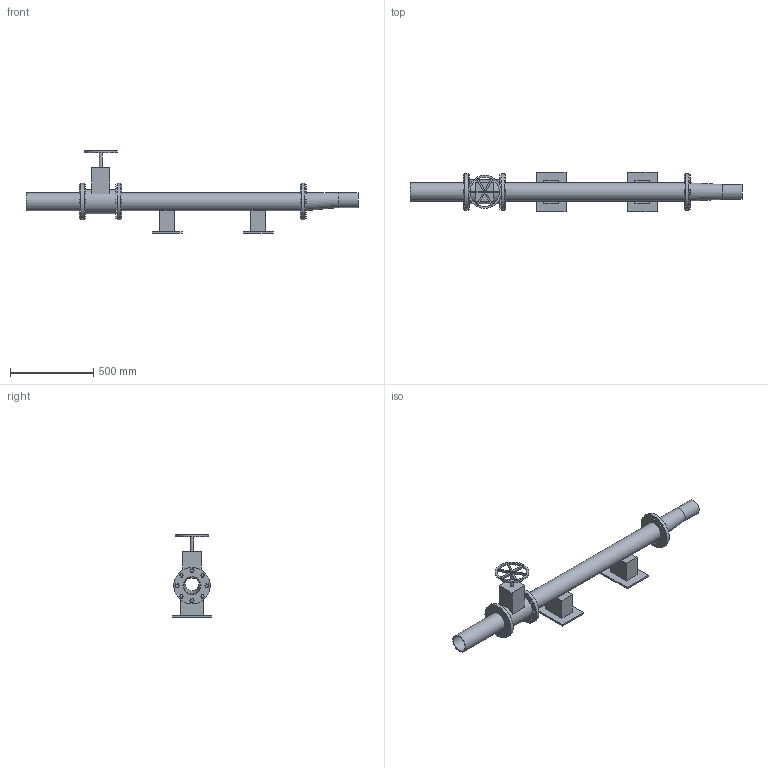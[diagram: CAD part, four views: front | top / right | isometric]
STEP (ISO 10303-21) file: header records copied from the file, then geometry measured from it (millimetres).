
FILE_DESCRIPTION(('Open CASCADE Model'),'2;1');
FILE_NAME('Open CASCADE Shape Model','2026-09-13T08:16:12',('Author'),( 'Open CASCADE'),'Open CASCADE STEP processor 7.8','Open CASCADE 7.8' ,'Unknown');
FILE_SCHEMA(('AUTOMOTIVE_DESIGN { 1 0 10303 214 1 1 1 1 }'));
Length unit declared in the file: millimetre
Products named in the file (43): Open CASCADE STEP translator 7.8 1; Open CASCADE STEP translator 7.8 1.1; Open CASCADE STEP translator 7.8 1.2; Open CASCADE STEP translator 7.8 1.3; Open CASCADE STEP translator 7.8 1.4; Open CASCADE STEP translator 7.8 1.5; Open CASCADE STEP translator 7.8 1.6; Open CASCADE STEP translator 7.8 1.7; Open CASCADE STEP translator 7.8 1.8; Open CASCADE STEP translator 7.8 1.9; Open CASCADE STEP translator 7.8 1.10; Open CASCADE STEP translator 7.8 1.11; Open CASCADE STEP translator 7.8 1.12; Open CASCADE STEP translator 7.8 1.13; Open CASCADE STEP translator 7.8 1.14; Open CASCADE STEP translator 7.8 1.15; Open CASCADE STEP translator 7.8 1.16; Open CASCADE STEP translator 7.8 1.17; Open CASCADE STEP translator 7.8 1.18; Open CASCADE STEP translator 7.8 1.19; Open CASCADE STEP translator 7.8 1.20; Open CASCADE STEP translator 7.8 1.21; Open CASCADE STEP translator 7.8 1.22; Open CASCADE STEP translator 7.8 1.23; Open CASCADE STEP translator 7.8 1.24; Open CASCADE STEP translator 7.8 1.25; Open CASCADE STEP translator 7.8 1.26; Open CASCADE STEP translator 7.8 1.27; Open CASCADE STEP translator 7.8 1.28; Open CASCADE STEP translator 7.8 1.29; Open CASCADE STEP translator 7.8 1.30; Open CASCADE STEP translator 7.8 1.31; Open CASCADE STEP translator 7.8 1.32; Open CASCADE STEP translator 7.8 1.33; Open CASCADE STEP translator 7.8 1.34; Open CASCADE STEP translator 7.8 1.35; Open CASCADE STEP translator 7.8 1.36; Open CASCADE STEP translator 7.8 1.37; Open CASCADE STEP translator 7.8 1.38; Open CASCADE STEP translator 7.8 1.39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
Assembly tree (42 placements, depth 2):
  Open CASCADE STEP translator 7.8 1
    Open CASCADE STEP translator 7.8 1.1
    Open CASCADE STEP translator 7.8 1.2
    Open CASCADE STEP translator 7.8 1.3
    Open CASCADE STEP translator 7.8 1.4
    Open CASCADE STEP translator 7.8 1.5
    Open CASCADE STEP translator 7.8 1.6
    Open CASCADE STEP translator 7.8 1.7
    Open CASCADE STEP translator 7.8 1.8
    Open CASCADE STEP translator 7.8 1.9
    Open CASCADE STEP translator 7.8 1.10
    Open CASCADE STEP translator 7.8 1.11
    Open CASCADE STEP translator 7.8 1.12
    Open CASCADE STEP translator 7.8 1.13
    Open CASCADE STEP translator 7.8 1.14
    Open CASCADE STEP translator 7.8 1.15
    Open CASCADE STEP translator 7.8 1.16
    Open CASCADE STEP translator 7.8 1.17
    Open CASCADE STEP translator 7.8 1.18
    Open CASCADE STEP translator 7.8 1.19
    Open CASCADE STEP translator 7.8 1.20
    Open CASCADE STEP translator 7.8 1.21
    Open CASCADE STEP translator 7.8 1.22
    Open CASCADE STEP translator 7.8 1.23
    Open CASCADE STEP translator 7.8 1.24
    Open CASCADE STEP translator 7.8 1.25
    Open CASCADE STEP translator 7.8 1.26
    Open CASCADE STEP translator 7.8 1.27
    Open CASCADE STEP translator 7.8 1.28
    Open CASCADE STEP translator 7.8 1.29
    Open CASCADE STEP translator 7.8 1.30
    Open CASCADE STEP translator 7.8 1.31
    Open CASCADE STEP translator 7.8 1.32
    Open CASCADE STEP translator 7.8 1.33
    Open CASCADE STEP translator 7.8 1.34
    Open CASCADE STEP translator 7.8 1.35
    Open CASCADE STEP translator 7.8 1.36
    Open CASCADE STEP translator 7.8 1.37
    Open CASCADE STEP translator 7.8 1.38
    Open CASCADE STEP translator 7.8 1.39
    Open CASCADE STEP translator 7.8 1.40
    Open CASCADE STEP translator 7.8 1.41
    Open CASCADE STEP translator 7.8 1.42
Bounding box: 2000 x 240 x 497 mm (x, y, z)
Volume: 12908602.7 mm3; surface area: 2186116.7 mm2
Topology: 42 solids, 42 shells, 303 faces, 657 edges, 438 vertices
Faces by surface type: plane 260, cylinder 41, bspline 2
Full cylindrical faces by diameter (mm): 18 x24, 20 x1, 80 x1, 90 x1, 100 x6, 110 x2, 145 x1, 176 x1, 200 x1, 220 x3
Entity records: 17736 total; most frequent: CARTESIAN_POINT 3131, DIRECTION 2695, LINE 1797, VECTOR 1797, ORIENTED_EDGE 1314, PCURVE 1314, DEFINITIONAL_REPRESENTATION 1314, EDGE_CURVE 657
